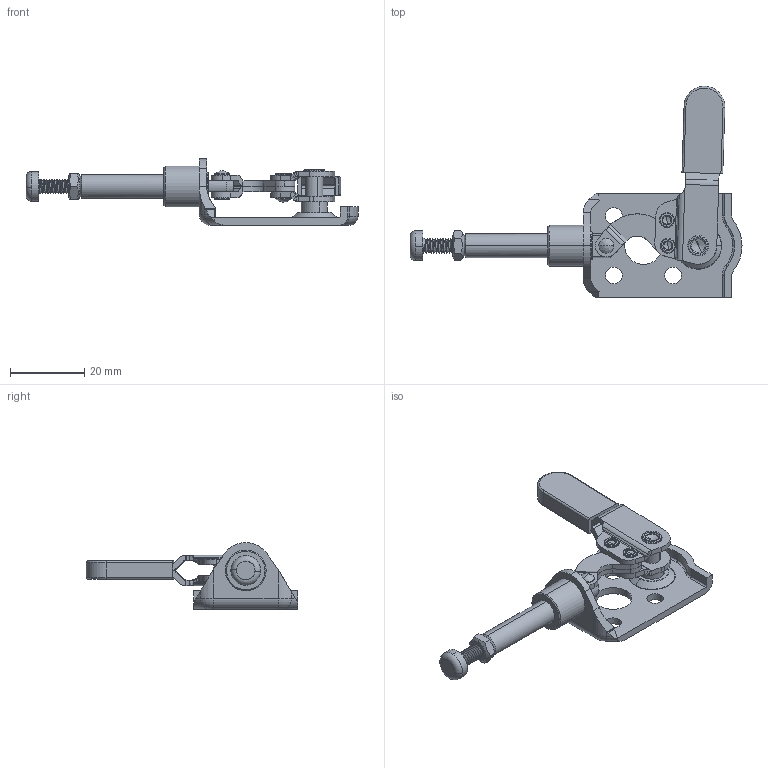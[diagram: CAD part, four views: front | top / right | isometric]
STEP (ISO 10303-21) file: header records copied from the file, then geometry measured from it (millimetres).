
FILE_DESCRIPTION (( 'STEP AP214' ), '1' );
FILE_NAME ('DST-301-CL.STEP', '2021-12-22T13:25:59', ( '' ), ( '' ), 'SwSTEP 2.0', 'SolidWorks 2015', '' );
FILE_SCHEMA (( 'AUTOMOTIVE_DESIGN' ));
Length unit declared in the file: millimetre
Products named in the file (10): DST-301-CL-001; DST-301-CL-007; DST-301-CL-008; DST-301-CL; DST-301-CL-002; DST-301-CL-009; DST-301-CL-005; DST-301-CL-003; DST-301-CL-006; DST-301-CL-004
Assembly tree (10 placements, depth 2):
  DST-301-CL
    DST-301-CL-003
    DST-301-CL-008
    DST-301-CL-007
    DST-301-CL-004
    DST-301-CL-005
    DST-301-CL-001
    DST-301-CL-006
    DST-301-CL-002
    DST-301-CL-009  x2
Bounding box: 89.48 x 56.96 x 18 mm (x, y, z)
Volume: 7785.8 mm3; surface area: 10975.8 mm2
Topology: 15 solids, 15 shells, 434 faces, 1103 edges, 701 vertices
Faces by surface type: cylinder 174, plane 134, torus 50, cone 46, bspline 30
Entity records: 24903 total; most frequent: CARTESIAN_POINT 10094, ORIENTED_EDGE 2066, DIRECTION 2059, EDGE_CURVE 1033, AXIS2_PLACEMENT_3D 810, VERTEX_POINT 665, EDGE_LOOP 468, UNCERTAINTY_MEASURE_WITH_UNIT 444
